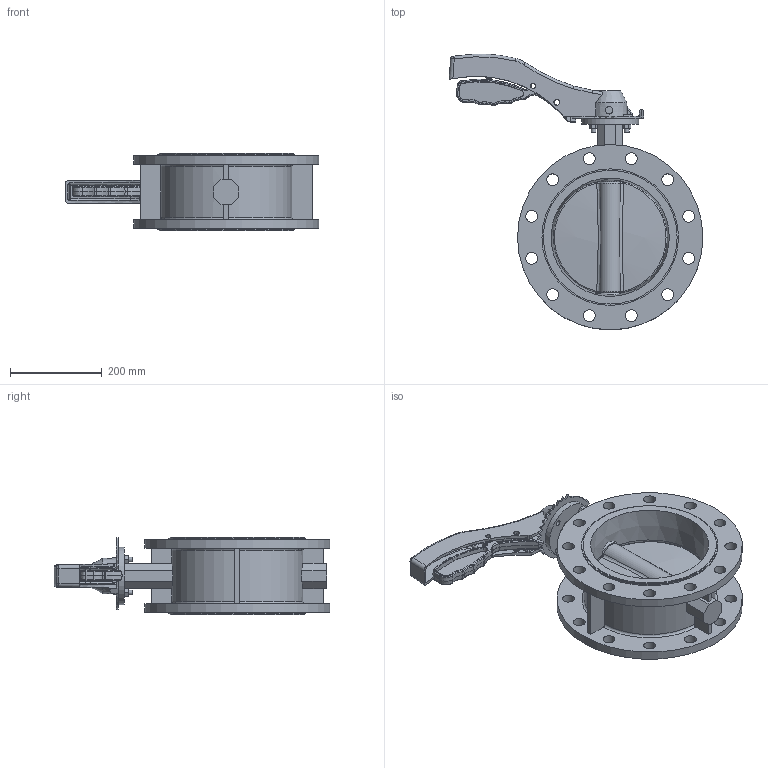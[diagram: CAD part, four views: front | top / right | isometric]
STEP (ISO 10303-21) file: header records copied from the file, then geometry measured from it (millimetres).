
FILE_DESCRIPTION (( 'STEP AP214' ), '1' );
FILE_NAME ('忒梟 邧楊擘評概 Fig.3226-204B-250-16.STEP', '2026-03-20T02:01:50', ( '' ), ( '' ), 'SwSTEP 2.0', 'SolidWorks 2024', '' );
FILE_SCHEMA (( 'AUTOMOTIVE_DESIGN' ));
Length unit declared in the file: millimetre
Products named in the file (1): 手柄 双法兰蝶阀 Fig.3226-204B-250-16
Bounding box: 554.5 x 602.82 x 169 mm (x, y, z)
Volume: 6896971.8 mm3; surface area: 986790.2 mm2
Topology: 1 solids, 5 shells, 1173 faces, 3299 edges, 2178 vertices
Faces by surface type: plane 766, cylinder 171, bspline 144, cone 72, torus 16, sphere 4
Full cylindrical faces by diameter (mm): 10 x4, 10.2 x1, 10.71 x3, 12 x4, 12.648 x2, 14.362 x2, 16.32 x1, 17.8 x2, 26 x24, 28.7 x2, 39.984 x1, 40.8 x1, 70 x1, 125 x1, 292.4 x2, 298.4 x2, 405 x2
Entity records: 62699 total; most frequent: CARTESIAN_POINT 21903, ORIENTED_EDGE 6348, DIRECTION 4755, EDGE_CURVE 3174, VERTEX_POINT 2127, VECTOR 2037, LINE 2037, EDGE_LOOP 1365
